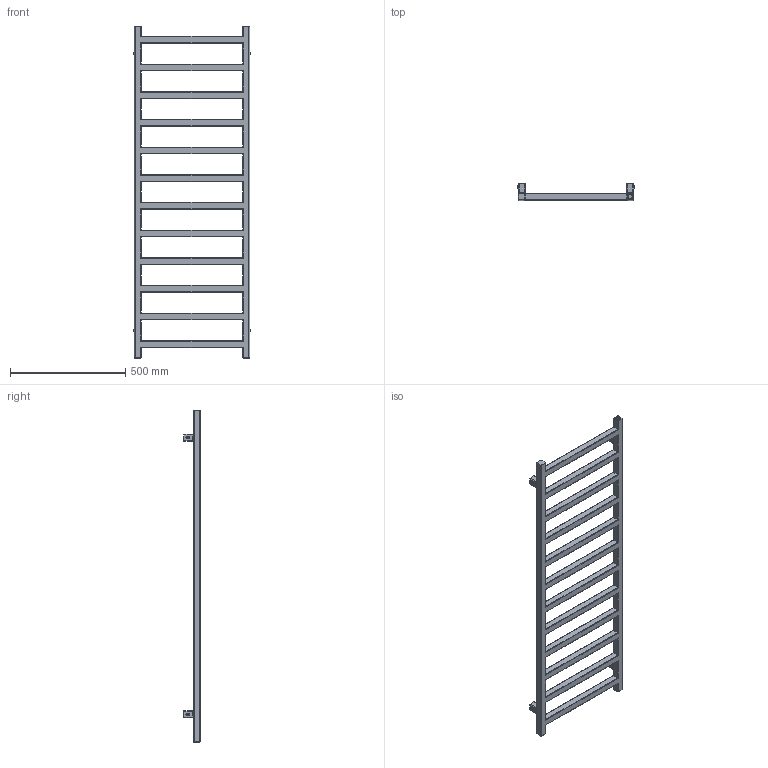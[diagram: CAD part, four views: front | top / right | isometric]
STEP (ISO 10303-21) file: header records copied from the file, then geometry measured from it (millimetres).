
FILE_DESCRIPTION((''),'2;1');
FILE_NAME('Z:\R\G\P\RGP035 - Grzejnik Simple\Work\Inventor\Marketing\AutoCad 3D\SIM-1440-500-1-5-8.stp','2012-07-12T14:53:19',('KurKa'),(''),'Autodesk Inventor 2012','Autodesk Inventor 2012','');
FILE_SCHEMA(('AUTOMOTIVE_DESIGN { 1 0 10303 214 1 1 1 1 }'));
Length unit declared in the file: millimetre
Products named in the file (3): SIM-1440-500-1-5-8; MMT42_marketing
Assembly tree (5 placements, depth 2):
  SIM-1440-500-1-5-8
    SIM-1440-500-1-5-8
    MMT42_marketing  x4
Bounding box: 506 x 72 x 1440 mm (x, y, z)
Volume: 7442729.4 mm3; surface area: 961714.9 mm2
Topology: 5 solids, 5 shells, 403 faces, 1027 edges, 657 vertices
Faces by surface type: cylinder 179, plane 169, cone 24, torus 19, bspline 12
Full cylindrical faces by diameter (mm): 4.134 x4, 4.509 x4, 10 x4, 12 x4, 18.631 x3
Entity records: 9855 total; most frequent: CARTESIAN_POINT 3260, ORIENTED_EDGE 1352, DIRECTION 1330, EDGE_CURVE 676, AXIS2_PLACEMENT_3D 490, VERTEX_POINT 448, VECTOR 350, LINE 350
